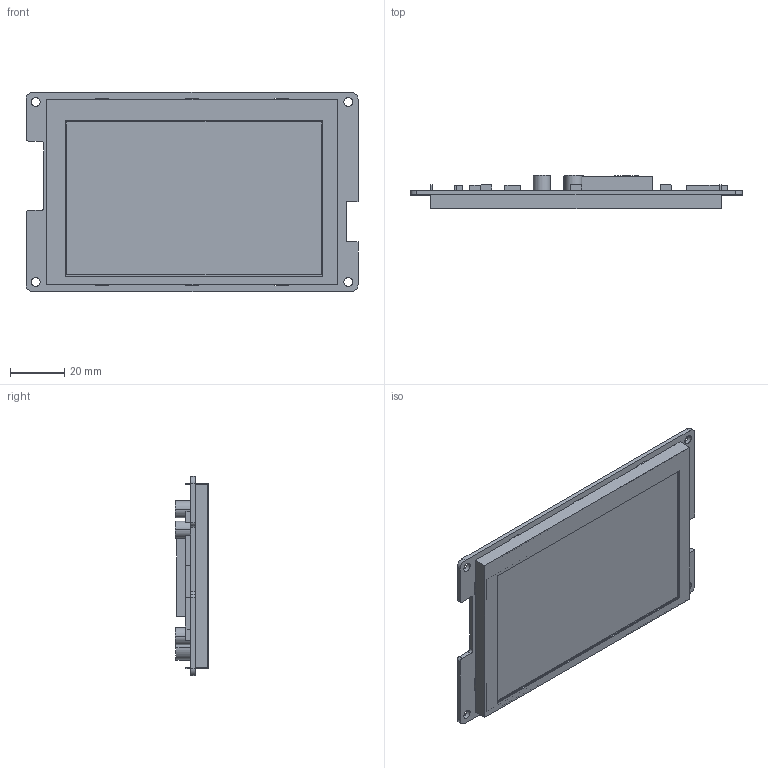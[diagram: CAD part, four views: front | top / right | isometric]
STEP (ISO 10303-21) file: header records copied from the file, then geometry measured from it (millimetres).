
FILE_DESCRIPTION((''),'2;1');
FILE_NAME('DMG80480C043-01W_ASM','2023-02-15T',('Administrator'),(''),'PRO/ENGINEER BY PARAMETRIC TECHNOLOGY CORPORATION, 2014320','PRO/ENGINEER BY PARAMETRIC TECHNOLOGY CORPORATION, 2014320','');
FILE_SCHEMA(('CONFIG_CONTROL_DESIGN','SHAPE_APPEARANCE_LAYERS_GROUPS'));
Length unit declared in the file: millimetre
Products named in the file (4): TK043000; 043IPS; PCB; DMG80480C043-01W_ASM
Assembly tree (3 placements, depth 2):
  DMG80480C043-01W_ASM
    TK043000
    043IPS
    PCB
Bounding box: 121.92 x 12.3 x 73.15 mm (x, y, z)
Volume: 41198.3 mm3; surface area: 42374.1 mm2
Topology: 3 solids, 3 shells, 253 faces, 705 edges, 470 vertices
Faces by surface type: plane 194, cylinder 59
Entity records: 9453 total; most frequent: CARTESIAN_POINT 1435, ORIENTED_EDGE 1410, DIRECTION 1343, EDGE_CURVE 705, VECTOR 587, LINE 587, VERTEX_POINT 470, PRESENTATION_STYLE_ASSIGNMENT 387
